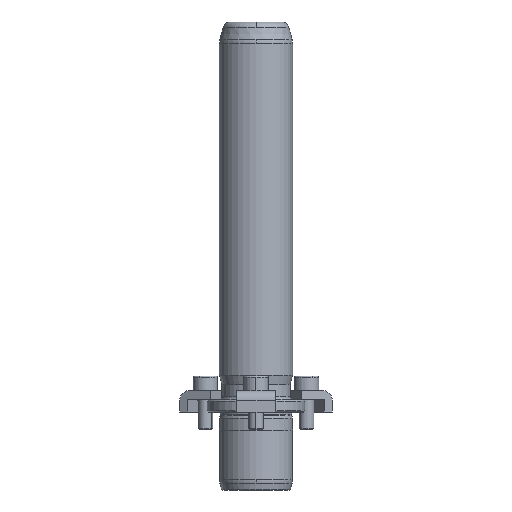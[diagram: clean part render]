
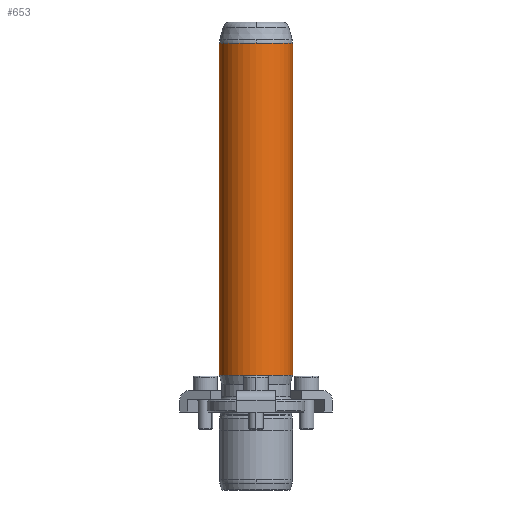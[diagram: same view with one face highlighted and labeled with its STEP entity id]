
A CAD part, front view. The second image highlights one B-rep face of the part: STEP entity #653.
In plain terms, the highlighted cylindrical face has radius 15 mm (diameter 30 mm), a partial arc.
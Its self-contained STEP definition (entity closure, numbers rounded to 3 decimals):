
#566=CARTESIAN_POINT('',(0.0,-15.,151.342));
#567=VERTEX_POINT('',#566);
#594=CARTESIAN_POINT('',(-15.0,0.,151.342));
#595=VERTEX_POINT('',#594);
#603=CARTESIAN_POINT('',(0.0,0.,151.342));
#604=DIRECTION('',(0.0,0.0,1.0));
#605=DIRECTION('',(1.0,0.0,0.0));
#606=AXIS2_PLACEMENT_3D('',#603,#604,#605);
#607=CIRCLE('',#606,15.);
#608=EDGE_CURVE('',#595,#567,#607,.T.);
#613=CARTESIAN_POINT('',(0.0,0.,83.171));
#614=DIRECTION('',(0.0,0.,1.0));
#615=DIRECTION('',(1.0,0.0,0.0));
#616=AXIS2_PLACEMENT_3D('',#613,#614,#615);
#617=CYLINDRICAL_SURFACE('',#616,15.0);
#618=CARTESIAN_POINT('',(15.,0.,151.342));
#619=VERTEX_POINT('',#618);
#620=CARTESIAN_POINT('',(15.0,0.,15.0));
#621=VERTEX_POINT('',#620);
#622=CARTESIAN_POINT('',(15.,0.,151.342));
#623=DIRECTION('',(0.0,0.0,-1.0));
#624=VECTOR('',#623,136.342);
#625=LINE('',#622,#624);
#626=EDGE_CURVE('',#619,#621,#625,.T.);
#627=ORIENTED_EDGE('',*,*,#626,.F.);
#628=CARTESIAN_POINT('',(0.0,0.,151.342));
#629=DIRECTION('',(0.0,0.0,1.0));
#630=DIRECTION('',(1.0,0.0,0.0));
#631=AXIS2_PLACEMENT_3D('',#628,#629,#630);
#632=CIRCLE('',#631,15.);
#633=EDGE_CURVE('',#567,#619,#632,.T.);
#634=ORIENTED_EDGE('',*,*,#633,.F.);
#635=ORIENTED_EDGE('',*,*,#608,.F.);
#636=CARTESIAN_POINT('',(-15.0,0.,15.0));
#637=VERTEX_POINT('',#636);
#638=CARTESIAN_POINT('',(-15.0,0.,151.342));
#639=DIRECTION('',(0.0,0.0,-1.0));
#640=VECTOR('',#639,136.342);
#641=LINE('',#638,#640);
#642=EDGE_CURVE('',#595,#637,#641,.T.);
#643=ORIENTED_EDGE('',*,*,#642,.T.);
#644=CARTESIAN_POINT('',(0.0,0.,15.0));
#645=DIRECTION('',(0.0,0.0,1.0));
#646=DIRECTION('',(1.0,0.0,0.0));
#647=AXIS2_PLACEMENT_3D('',#644,#645,#646);
#648=CIRCLE('',#647,15.0);
#649=EDGE_CURVE('',#637,#621,#648,.T.);
#650=ORIENTED_EDGE('',*,*,#649,.T.);
#651=EDGE_LOOP('',(#627,#634,#635,#643,#650));
#652=FACE_OUTER_BOUND('',#651,.T.);
#653=ADVANCED_FACE('',(#652),#617,.T.);
